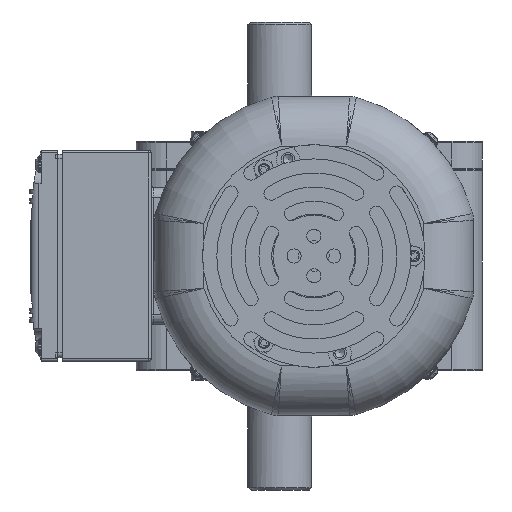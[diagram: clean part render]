
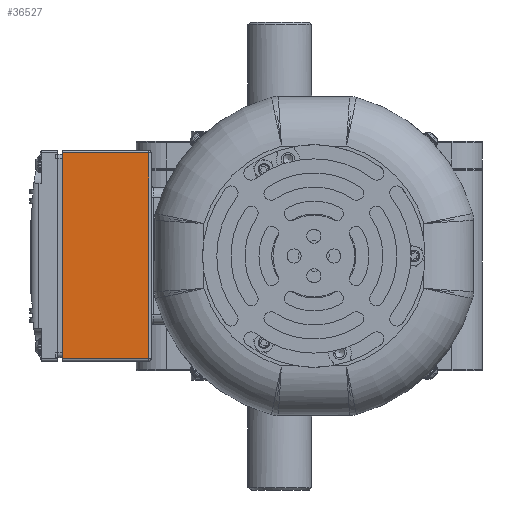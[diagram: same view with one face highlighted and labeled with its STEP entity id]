
A CAD part, left-side view. The second image highlights one B-rep face of the part: STEP entity #36527.
In plain terms, the highlighted planar face has unit normal (-1, 0, 0).
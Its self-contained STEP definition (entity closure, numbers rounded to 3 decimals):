
#3046=PLANE('',#39179);
#4258=FACE_OUTER_BOUND('',#6439,.T.);
#6439=EDGE_LOOP('',(#27387,#27388,#27389,#27390));
#9055=LINE('',#58509,#11789);
#9056=LINE('',#58511,#11790);
#9057=LINE('',#58513,#11791);
#9058=LINE('',#58514,#11792);
#11789=VECTOR('',#45211,10.);
#11790=VECTOR('',#45212,10.);
#11791=VECTOR('',#45213,10.);
#11792=VECTOR('',#45214,10.);
#16876=VERTEX_POINT('',#58507);
#16877=VERTEX_POINT('',#58508);
#16878=VERTEX_POINT('',#58510);
#16879=VERTEX_POINT('',#58512);
#20755=EDGE_CURVE('',#16876,#16877,#9055,.T.);
#20756=EDGE_CURVE('',#16878,#16876,#9056,.T.);
#20757=EDGE_CURVE('',#16878,#16879,#9057,.T.);
#20758=EDGE_CURVE('',#16877,#16879,#9058,.T.);
#27387=ORIENTED_EDGE('',*,*,#20755,.F.);
#27388=ORIENTED_EDGE('',*,*,#20756,.F.);
#27389=ORIENTED_EDGE('',*,*,#20757,.T.);
#27390=ORIENTED_EDGE('',*,*,#20758,.F.);
#36527=ADVANCED_FACE('',(#4258),#3046,.T.);
#39179=AXIS2_PLACEMENT_3D('',#58506,#45209,#45210);
#45209=DIRECTION('center_axis',(-1.,0.,0.));
#45210=DIRECTION('ref_axis',(0.,1.,0.));
#45211=DIRECTION('',(0.,0.,-1.));
#45212=DIRECTION('',(0.,-1.,0.));
#45213=DIRECTION('',(0.,0.,-1.));
#45214=DIRECTION('',(0.,1.,0.));
#58506=CARTESIAN_POINT('Origin',(-250.5,54.5,45.065));
#58507=CARTESIAN_POINT('',(-250.5,55.5,44.065));
#58508=CARTESIAN_POINT('',(-250.5,55.5,-43.935));
#58509=CARTESIAN_POINT('',(-250.5,55.5,22.565));
#58510=CARTESIAN_POINT('',(-250.5,92.5,44.065));
#58511=CARTESIAN_POINT('',(-250.5,54.5,44.065));
#58512=CARTESIAN_POINT('',(-250.5,92.5,-43.935));
#58513=CARTESIAN_POINT('',(-250.5,92.5,-44.935));
#58514=CARTESIAN_POINT('',(-250.5,54.5,-43.935));
